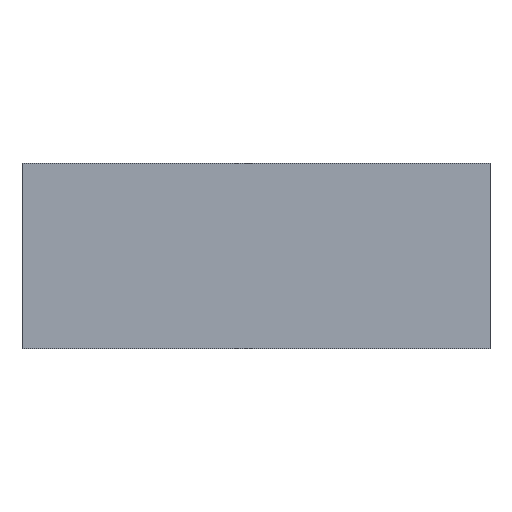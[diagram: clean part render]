
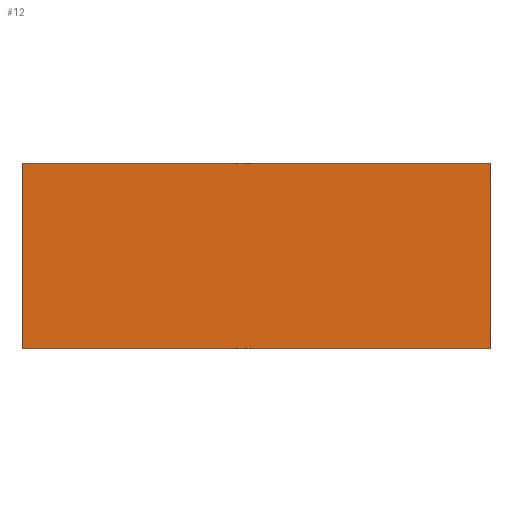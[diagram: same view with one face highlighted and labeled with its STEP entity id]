
A CAD part, front view. The second image highlights one B-rep face of the part: STEP entity #12.
In plain terms, the highlighted planar face has unit normal (0, -1, 0).
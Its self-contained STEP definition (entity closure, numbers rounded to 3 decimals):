
#12 = ADVANCED_FACE ( 'NONE', ( #400 ), #167, .F. ) ;
#21 = VERTEX_POINT ( 'NONE', #196 ) ;
#22 = VERTEX_POINT ( 'NONE', #207 ) ;
#49 = EDGE_CURVE ( 'NONE', #22, #127, #402, .T. ) ;
#71 = EDGE_CURVE ( 'NONE', #21, #127, #560, .T. ) ;
#75 = EDGE_CURVE ( 'NONE', #223, #22, #564, .T. ) ;
#96 = EDGE_CURVE ( 'NONE', #223, #21, #518, .T. ) ;
#97 = AXIS2_PLACEMENT_3D ( 'NONE', #171, #177, #178 ) ;
#127 = VERTEX_POINT ( 'NONE', #326 ) ;
#167 = PLANE ( 'NONE',  #97 ) ;
#171 = CARTESIAN_POINT ( 'NONE',  ( -151., 0., 120. ) ) ;
#177 = DIRECTION ( 'NONE',  ( 0., 1., 0. ) ) ;
#178 = DIRECTION ( 'NONE',  ( -1., 0., 0. ) ) ;
#196 = CARTESIAN_POINT ( 'NONE',  ( 151., 0., 120. ) ) ;
#207 = CARTESIAN_POINT ( 'NONE',  ( -151., 0., 0. ) ) ;
#223 = VERTEX_POINT ( 'NONE', #335 ) ;
#236 = CARTESIAN_POINT ( 'NONE',  ( -151., 0., 0. ) ) ;
#239 = DIRECTION ( 'NONE',  ( 1., 0., 0. ) ) ;
#264 = CARTESIAN_POINT ( 'NONE',  ( 151., 0., 120. ) ) ;
#265 = DIRECTION ( 'NONE',  ( 0., 0., -1. ) ) ;
#268 = CARTESIAN_POINT ( 'NONE',  ( -151., 0., 120. ) ) ;
#269 = DIRECTION ( 'NONE',  ( 0., 0., -1. ) ) ;
#297 = CARTESIAN_POINT ( 'NONE',  ( -151., 0., 120. ) ) ;
#298 = DIRECTION ( 'NONE',  ( 1., 0., 0. ) ) ;
#326 = CARTESIAN_POINT ( 'NONE',  ( 151., 0., 0. ) ) ;
#335 = CARTESIAN_POINT ( 'NONE',  ( -151., 0., 120. ) ) ;
#358 = ORIENTED_EDGE ( 'NONE', *, *, #49, .T. ) ;
#400 = FACE_OUTER_BOUND ( 'NONE', #414, .T. ) ;
#402 = LINE ( 'NONE', #236, #499 ) ;
#405 = ORIENTED_EDGE ( 'NONE', *, *, #96, .F. ) ;
#406 = ORIENTED_EDGE ( 'NONE', *, *, #75, .T. ) ;
#414 = EDGE_LOOP ( 'NONE', ( #358, #428, #405, #406 ) ) ;
#428 = ORIENTED_EDGE ( 'NONE', *, *, #71, .F. ) ;
#499 = VECTOR ( 'NONE', #239, 1000. ) ;
#513 = VECTOR ( 'NONE', #298, 1000. ) ;
#518 = LINE ( 'NONE', #297, #513 ) ;
#560 = LINE ( 'NONE', #264, #561 ) ;
#561 = VECTOR ( 'NONE', #265, 1000. ) ;
#564 = LINE ( 'NONE', #268, #565 ) ;
#565 = VECTOR ( 'NONE', #269, 1000. ) ;
